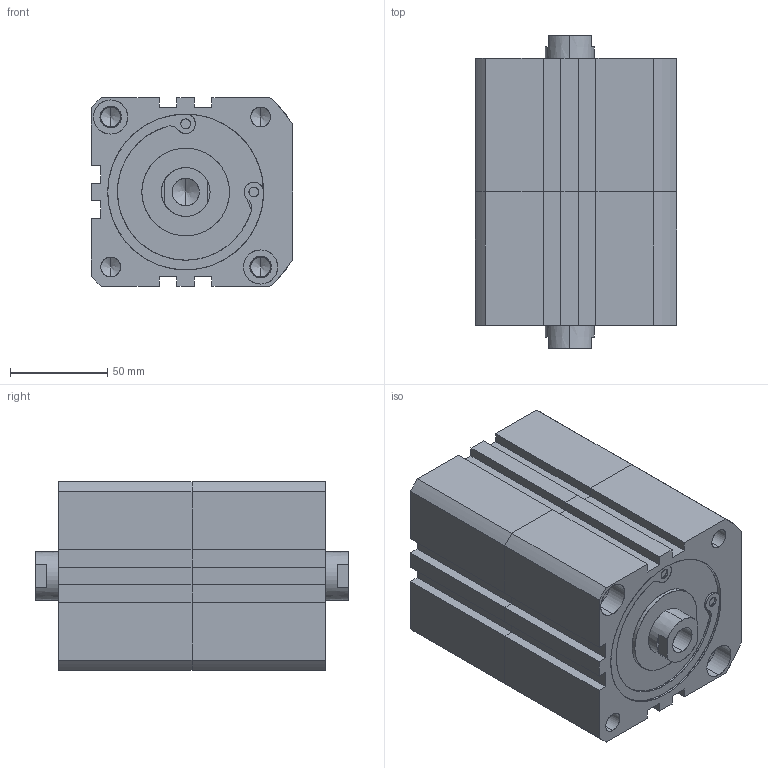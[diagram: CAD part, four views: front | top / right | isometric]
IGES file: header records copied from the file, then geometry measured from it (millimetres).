
Start section: SolidWorks IGES file using analytic representation for surfaces
Global section: file name: C:\Users\Toshiba\Desktop\XGD7-80-10-10(L).IGS; native system: SolidWorks 2014; preprocessor: SolidWorks 2014; author: Toshiba; date: 160805.094521; units: millimetre
Bounding box: 103.5 x 161 x 97 mm (x, y, z)
Surface area: 125843.9 mm2 (no closed solid volume)
Topology: 0 solids, 0 shells, 222 faces, 3726 edges, 3698 vertices
Faces by surface type: revolution 130, bspline 92
